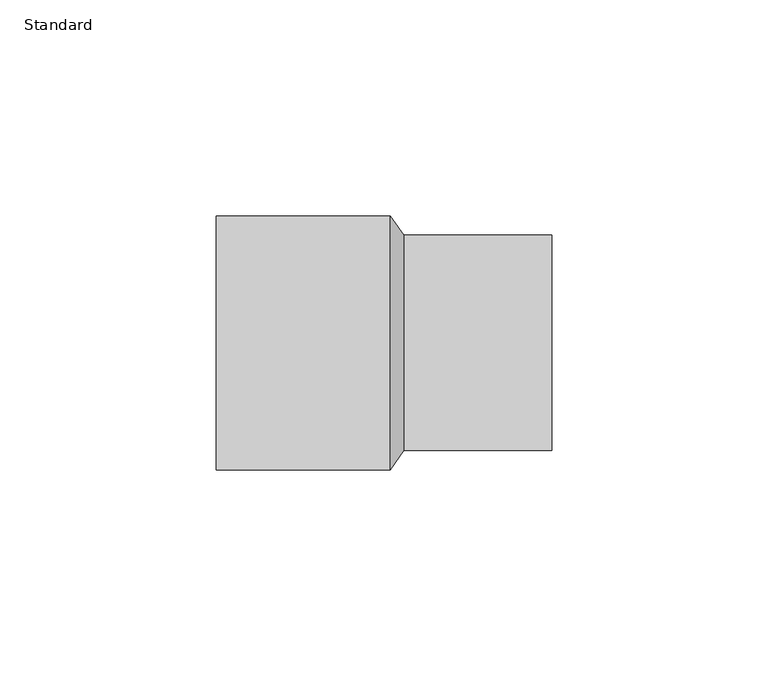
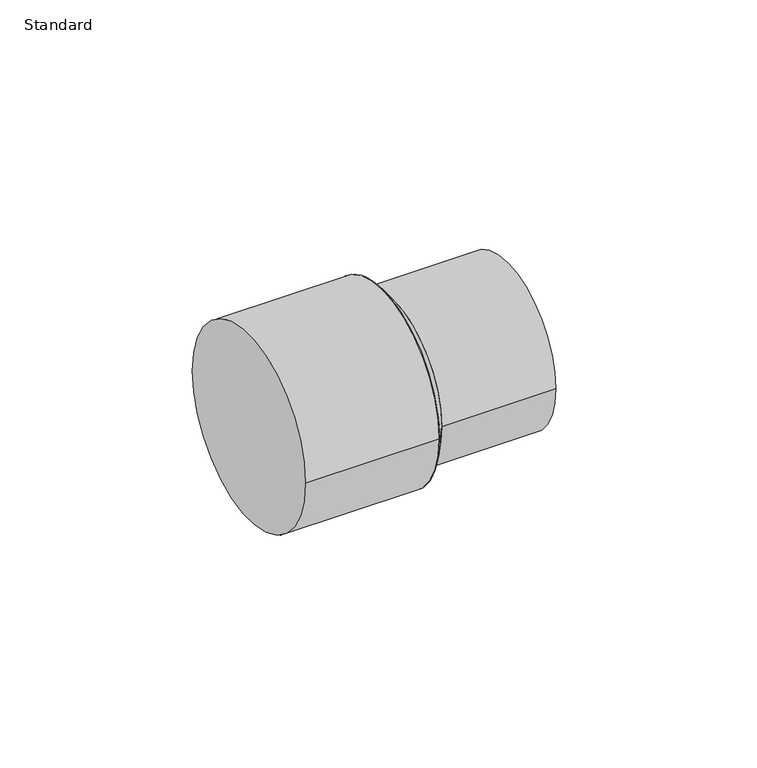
"""IFC4 building model written with IfcOpenShell, lengths in millimetres: pipe fitting geometry, M_Coupling Reducing - CPVC - Sch 40 : Standard."""

from ifc_helpers import new_model, si_unit, point, frame, origin, origin_2d, place, context, project, spatial, polyline, circle_curve, trimmed, segment, composite_curve, outline, extrude, source, transform, mapped, element, save
from ifc_brep_helpers import plane_surface, revolved_surface, advanced_brep


def standard_a995ec02(model_context):
    return source(origin(), model_context, "Body", "SolidModel", [
        advanced_brep(
        [(43.496875, -24.9149219, 0.0), (43.496875, 24.9149219, 0.0), (40.321875, -29.3949219, 0.0), (40.321875, 29.3949219, 0.0)],
        [
            (0, 1, circle_curve(frame((43.496875, 0.0, 0.0), z_axis=(1.0, -4.273914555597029e-12, 0.0), x_axis=(-4.273891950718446e-12, -1.0, 0.0)), 24.9149219)),
            (1, 0, circle_curve(frame((43.496875, 0.0, 0.0), z_axis=(1.0, -4.273914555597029e-12, 0.0), x_axis=(4.273891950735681e-12, 1.0, 0.0)), 24.9149219)),
            (2, 3, circle_curve(frame((40.321875, 0.0, 0.0), z_axis=(-1.0, 4.273914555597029e-12, 0.0), x_axis=(4.273891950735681e-12, 1.0, 0.0)), 29.3949219)),
            (3, 2, circle_curve(frame((40.321875, 0.0, 0.0), z_axis=(-1.0, 4.273914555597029e-12, 0.0), x_axis=(-4.273891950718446e-12, -1.0, 0.0)), 29.3949219)),
            (3, 1),
            (0, 2),
        ],
        [
            plane_surface(frame((43.496875, 0.0, 0.0), z_axis=(1.0, 0.0, 0.0), x_axis=(0.0, 0.0, -1.0))),
            plane_surface(frame((40.321875, 0.0, 0.0), z_axis=(-1.0, 0.0, 0.0), x_axis=(0.0, 0.0, -1.0))),
            revolved_surface(polyline([(43.496875, -24.914921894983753, 0.0), (40.32187499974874, -29.39492190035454, 0.0)]), (61.1542136, 0.0, 0.0), (-1.0, 4.273914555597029e-12, 0.0)),
            revolved_surface(polyline([(43.49687500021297, 24.91492189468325, 0.0), (40.321875, 29.3949219, 0.0)]), (61.1542136, 0.0, 0.0), (-1.0, 4.273914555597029e-12, 0.0)),
        ],
        [
            (0, [[1, 2]]),
            (1, [[3, 4]]),
            (2, [[-4, 5, -1, 6]]),
            (3, [[-3, -6, -2, -5]]),
        ],
    ),
        extrude(outline(composite_curve([segment(trimmed(circle_curve(origin_2d(), 24.9149219), [point((-24.9149219, 0.0))], [point((24.9149219, 0.0))], False, "CARTESIAN"), True, "CONTINUOUS"), segment(trimmed(circle_curve(origin_2d(), 24.9149219), [point((24.9149219, 0.0))], [point((-24.9149219, 0.0))], False, "CARTESIAN"), True, "CONTINUOUS")], self_intersect=False)), frame((43.496875, 0.0, 0.0), z_axis=(1.0, 0.0, 0.0), x_axis=(0.0, 1.0, 0.0)), (0.0, 0.0, 1.0), 34.241875),
        extrude(outline(composite_curve([segment(trimmed(circle_curve(origin_2d(), 29.3949219), [point((-29.3949219, 0.0))], [point((29.3949219, 0.0))], False, "CARTESIAN"), True, "CONTINUOUS"), segment(trimmed(circle_curve(origin_2d(), 29.3949219), [point((29.3949219, 0.0))], [point((-29.3949219, 0.0))], False, "CARTESIAN"), True, "CONTINUOUS")], self_intersect=False)), frame((0.0, 0.0, 0.0), z_axis=(1.0, 0.0, 0.0), x_axis=(0.0, 1.0, 0.0)), (0.0, 0.0, 1.0), 40.321875),
    ])


if __name__ == "__main__":
    model = new_model("IFC4")
    model_context = context("Model", 3, world=origin())
    ifc_project = project(units=[si_unit("LENGTHUNIT", "METRE", prefix="MILLI")], contexts=[model_context])
    site = spatial("IfcSite", under=ifc_project)
    building = spatial("IfcBuilding", under=site)
    placement = place(None, origin())
    standard_shape = standard_a995ec02(model_context)
    element("IfcPipeFitting", 1, ObjectType="M_Coupling Reducing - CPVC - Sch 40 : Standard", at=placement, inside=building, context=model_context, shape_type="MappedRepresentation", body=[
        mapped(standard_shape, transform((0.0, 0.0, 0.0), x_axis=(1.0, 0.0, 0.0), y_axis=(0.0, 1.0, 0.0), z_axis=(0.0, 0.0, 1.0))),
    ])
    save(model, "model.ifc")
